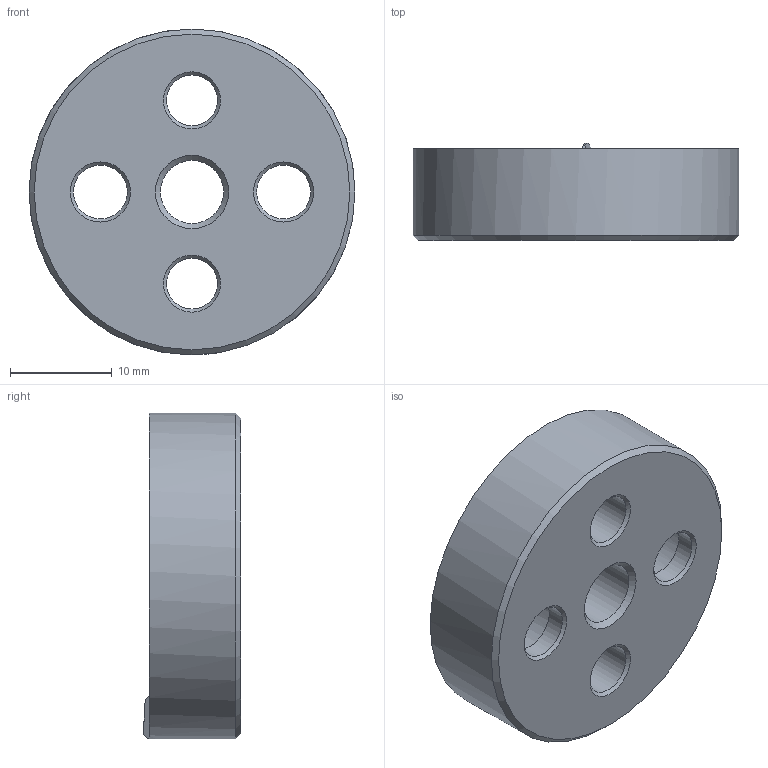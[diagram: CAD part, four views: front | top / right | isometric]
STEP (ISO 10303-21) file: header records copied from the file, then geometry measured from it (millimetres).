
FILE_DESCRIPTION( ( 'STEP AP203' ), '1' );
FILE_NAME( 'C:/Temp/Ganter_Step_05_03_2020/data/3_2/gn187_4/gn187_4_st/Serrated locking plate GN 187.4-32-48-B-ST.stp', '2020-03-13T05:25:38', ( 'License CC BY-ND 4.0' ), ( 'CADENAS' ), ' ', 'PARTsolutions', ' ' );
FILE_SCHEMA( ( 'CONFIG_CONTROL_DESIGN' ) );
Length unit declared in the file: millimetre
Products named in the file (1): _Serrated locking plate GN 187.4-32-48-B-ST
Bounding box: 32 x 9.57 x 32 mm (x, y, z)
Volume: 5290.7 mm3; surface area: 3141.5 mm2
Topology: 1 solids, 1 shells, 36 faces, 94 edges, 60 vertices
Faces by surface type: cone 15, cylinder 12, plane 9
Full cylindrical faces by diameter (mm): 5 x2, 5.3 x2, 6.2 x1, 9.4 x2, 32 x1
Entity records: 1152 total; most frequent: CARTESIAN_POINT 286, DIRECTION 178, ORIENTED_EDGE 146, AXIS2_PLACEMENT_3D 84, EDGE_CURVE 73, EDGE_LOOP 63, VERTEX_POINT 56, FACE_OUTER_BOUND 44
